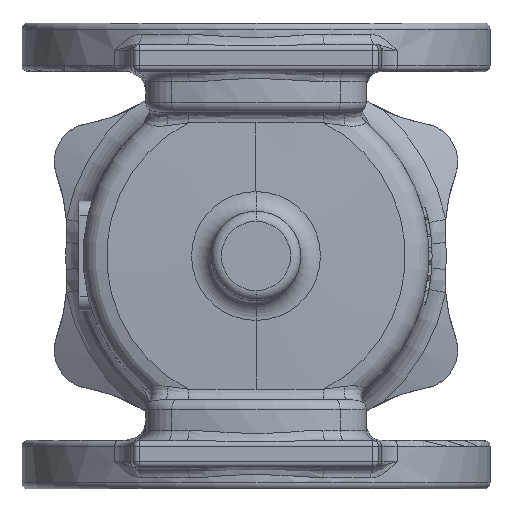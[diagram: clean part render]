
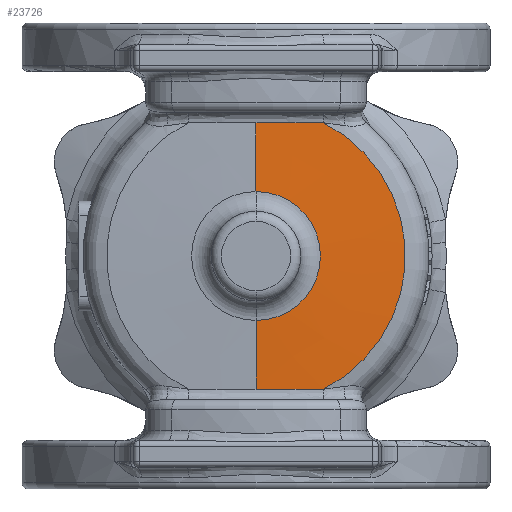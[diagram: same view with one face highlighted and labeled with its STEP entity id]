
A CAD part, front view. The second image highlights one B-rep face of the part: STEP entity #23726.
In plain terms, the highlighted conical face has half-angle 88 degrees and reference radius 85 mm.
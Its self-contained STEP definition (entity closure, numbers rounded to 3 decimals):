
#1077 = VERTEX_POINT ( 'NONE', #16357 ) ;
#2545 = VERTEX_POINT ( 'NONE', #11448 ) ;
#2564 = CARTESIAN_POINT ( 'NONE',  ( 22.185, -95.88, 65.434 ) ) ;
#2743 = CARTESIAN_POINT ( 'NONE',  ( 11.092, -95.984, -65.426 ) ) ;
#2974 = EDGE_CURVE ( 'Defeatured_0_263+Defeatured_0_260+Defeatured_0_359+Defeatured_0_374', #21885, #21999, #12367, .T. ) ;
#4420 = CARTESIAN_POINT ( 'NONE',  ( 0., -97.163, -31.651 ) ) ;
#4564 = EDGE_CURVE ( 'NONE', #14333, #2545, #26044, .T. ) ;
#6203 = ORIENTED_EDGE ( 'NONE', *, *, #2974, .T. ) ;
#6542 = EDGE_CURVE ( 'Defeatured_0_263+Defeatured_0_359+Defeatured_0_272+Defeatured_0_260', #2545, #21885, #8896, .T. ) ;
#6678 = EDGE_LOOP ( 'NONE', ( #9450, #10370, #15468, #6203, #23422, #20193 ) ) ;
#7091 = VECTOR ( 'NONE', #16583, 1000. ) ;
#7248 = FACE_OUTER_BOUND ( 'NONE', #6678, .T. ) ;
#7398 = DIRECTION ( 'NONE',  ( 0., 0., 1. ) ) ;
#8007 = CONICAL_SURFACE ( 'NONE', #23357, 85., 1.536 ) ;
#8122 = CIRCLE ( 'NONE', #17527, 31.651 ) ;
#8691 = CARTESIAN_POINT ( 'NONE',  ( 0., -97.163, 0. ) ) ;
#8896 = B_SPLINE_CURVE_WITH_KNOTS ( 'NONE', 3,
 ( #26286, #2743, #12173, #24863 ),
 .UNSPECIFIED., .F., .F.,
 ( 4, 4 ),
 ( 0.033, 0.067 ),
 .UNSPECIFIED. ) ;
#8917 = DIRECTION ( 'NONE',  ( 0., 0.035, 0.999 ) ) ;
#9098 = DIRECTION ( 'NONE',  ( 0., 0., -1. ) ) ;
#9379 = CARTESIAN_POINT ( 'NONE',  ( 11.092, -95.984, 65.426 ) ) ;
#9450 = ORIENTED_EDGE ( 'NONE', *, *, #26539, .T. ) ;
#10370 = ORIENTED_EDGE ( 'NONE', *, *, #4564, .T. ) ;
#11448 = CARTESIAN_POINT ( 'NONE',  ( 0., -95.984, -65.426 ) ) ;
#12173 = CARTESIAN_POINT ( 'NONE',  ( 22.185, -95.88, -65.434 ) ) ;
#12367 = CIRCLE ( 'NONE', #14368, 73.419 ) ;
#14333 = VERTEX_POINT ( 'NONE', #4420 ) ;
#14368 = AXIS2_PLACEMENT_3D ( 'NONE', #18404, #30326, #9098 ) ;
#15468 = ORIENTED_EDGE ( 'NONE', *, *, #6542, .T. ) ;
#16357 = CARTESIAN_POINT ( 'NONE',  ( 0., -97.163, 31.651 ) ) ;
#16583 = DIRECTION ( 'NONE',  ( 0., 0.035, -0.999 ) ) ;
#16696 = CARTESIAN_POINT ( 'NONE',  ( 0., -95.3, 0. ) ) ;
#17527 = AXIS2_PLACEMENT_3D ( 'NONE', #8691, #20632, #20314 ) ;
#17917 = EDGE_CURVE ( 'Defeatured_0_263+Defeatured_0_374+Defeatured_0_260+Defeatured_0_272', #21999, #23503, #26582, .T. ) ;
#18382 = LINE ( 'NONE', #20865, #21974 ) ;
#18404 = CARTESIAN_POINT ( 'NONE',  ( 0., -95.704, 0. ) ) ;
#18836 = CARTESIAN_POINT ( 'NONE',  ( 33.277, -95.704, 65.444 ) ) ;
#18997 = CARTESIAN_POINT ( 'NONE',  ( 0., -95.984, 65.426 ) ) ;
#20193 = ORIENTED_EDGE ( 'NONE', *, *, #28317, .F. ) ;
#20314 = DIRECTION ( 'NONE',  ( 0., 0., -1. ) ) ;
#20632 = DIRECTION ( 'NONE',  ( 0., 1., 0. ) ) ;
#20865 = CARTESIAN_POINT ( 'NONE',  ( 0., -95.3, 85. ) ) ;
#21515 = DIRECTION ( 'NONE',  ( 0., 1., 0. ) ) ;
#21885 = VERTEX_POINT ( 'NONE', #24830 ) ;
#21974 = VECTOR ( 'NONE', #8917, 1000. ) ;
#21999 = VERTEX_POINT ( 'NONE', #26036 ) ;
#22135 = CARTESIAN_POINT ( 'NONE',  ( 0., -95.984, 65.426 ) ) ;
#23357 = AXIS2_PLACEMENT_3D ( 'NONE', #16696, #21515, #7398 ) ;
#23422 = ORIENTED_EDGE ( 'NONE', *, *, #17917, .T. ) ;
#23503 = VERTEX_POINT ( 'NONE', #22135 ) ;
#23726 = ADVANCED_FACE ( 'Defeatured_0_263', ( #7248 ), #8007, .T. ) ;
#24830 = CARTESIAN_POINT ( 'NONE',  ( 33.277, -95.704, -65.444 ) ) ;
#24863 = CARTESIAN_POINT ( 'NONE',  ( 33.277, -95.704, -65.444 ) ) ;
#26036 = CARTESIAN_POINT ( 'NONE',  ( 33.277, -95.704, 65.444 ) ) ;
#26044 = LINE ( 'NONE', #28662, #7091 ) ;
#26286 = CARTESIAN_POINT ( 'NONE',  ( 0., -95.984, -65.426 ) ) ;
#26539 = EDGE_CURVE ( 'Defeatured_0_263+Defeatured_0_261+Defeatured_0_261+Defeatured_0_261', #1077, #14333, #8122, .T. ) ;
#26582 = B_SPLINE_CURVE_WITH_KNOTS ( 'NONE', 3,
 ( #18836, #2564, #9379, #18997 ),
 .UNSPECIFIED., .F., .F.,
 ( 4, 4 ),
 ( 0., 0.033 ),
 .UNSPECIFIED. ) ;
#28317 = EDGE_CURVE ( 'NONE', #1077, #23503, #18382, .T. ) ;
#28662 = CARTESIAN_POINT ( 'NONE',  ( 0., -95.3, -85. ) ) ;
#30326 = DIRECTION ( 'NONE',  ( 0., -1., 0. ) ) ;
